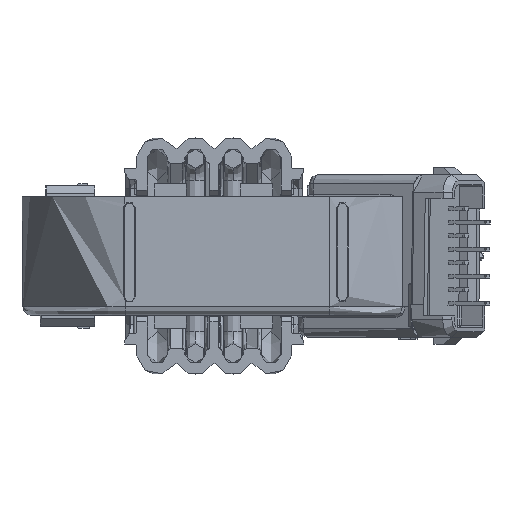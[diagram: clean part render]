
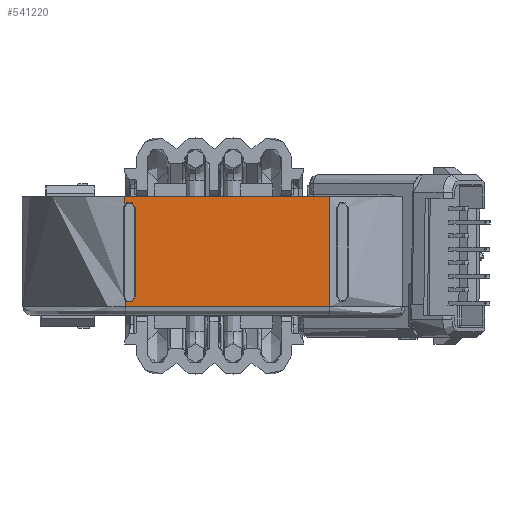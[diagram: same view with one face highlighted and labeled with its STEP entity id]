
A CAD part, front view. The second image highlights one B-rep face of the part: STEP entity #541220.
In plain terms, the highlighted planar face has unit normal (0, -1, -0.009) as drawn and (0.174, -0.985, -0.009) by its records, which use the part's own axes.
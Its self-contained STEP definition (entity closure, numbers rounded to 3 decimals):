
#393490=CARTESIAN_POINT('',(9.171,-18.005,
5.35));
#393500=VERTEX_POINT('',#393490);
#393530=CARTESIAN_POINT('',(0.,-19.618,5.35));
#393540=DIRECTION('',(-0.985,-0.174,0.));
#393550=VECTOR('',#393540,1.);
#393560=LINE('',#393530,#393550);
#393570=CARTESIAN_POINT('',(-9.541,-21.305,
5.35));
#393580=VERTEX_POINT('',#393570);
#393590=EDGE_CURVE('',#393500,#393580,#393560,.T.);
#540320=CARTESIAN_POINT('',(9.64,-17.83,
-5.124));
#540330=DIRECTION('',(0.174,-0.985,
-0.009));
#540340=DIRECTION('',(-0.985,-0.174,
0.));
#540350=AXIS2_PLACEMENT_3D('',#540320,#540330,#540340);
#540360=PLANE('',#540350);
#540370=CARTESIAN_POINT('',(-8.557,-21.122,
4.34));
#540380=CARTESIAN_POINT('',(-8.557,-21.122,
4.343));
#540390=CARTESIAN_POINT('',(-8.557,-21.122,
4.345));
#540400=CARTESIAN_POINT('',(-8.558,-21.123,
4.436));
#540410=CARTESIAN_POINT('',(-8.58,-21.128,
4.523));
#540420=CARTESIAN_POINT('',(-8.663,-21.144,
4.681));
#540430=CARTESIAN_POINT('',(-8.725,-21.155,
4.749));
#540440=CARTESIAN_POINT('',(-8.851,-21.178,
4.834));
#540450=CARTESIAN_POINT('',(-8.909,-21.189,
4.86));
#540460=CARTESIAN_POINT('',(-8.969,-21.2,
4.875));
#540470=CARTESIAN_POINT('',(-9.056,-21.215,
4.896));
#540480=CARTESIAN_POINT('',(-9.147,-21.231,
4.896));
#540490=CARTESIAN_POINT('',(-9.321,-21.262,
4.85));
#540500=CARTESIAN_POINT('',(-9.401,-21.275,
4.805));
#540510=CARTESIAN_POINT('',(-9.491,-21.29,
4.721));
#540520=CARTESIAN_POINT('',(-9.512,-21.294,
4.696));
#540530=CARTESIAN_POINT('',(-9.533,-21.297,
4.669));
#540540=CARTESIAN_POINT('',(-9.534,-21.297,
4.667));
#540550=CARTESIAN_POINT('',(-9.536,-21.298,
4.665));
#540560=B_SPLINE_CURVE_WITH_KNOTS('',3,(#540370,#540380,#540390,#540400,
#540410,#540420,#540430,#540440,#540450,#540460,#540470,#540480,#540490,
#540500,#540510,#540520,#540530,#540540,#540550),.UNSPECIFIED.,.F.,.F.,(
4,2,2,2,3,2,2,2,4),(0.,0.007,0.259,
0.52,0.7,0.961,1.221,
1.314,1.322),.UNSPECIFIED.);
#540570=CARTESIAN_POINT('',(-8.557,-21.122,
4.34));
#540580=VERTEX_POINT('',#540570);
#540590=CARTESIAN_POINT('',(-9.536,-21.298,
4.665));
#540600=VERTEX_POINT('',#540590);
#540610=EDGE_CURVE('',#540580,#540600,#540560,.T.);
#540620=ORIENTED_EDGE('',*,*,#540610,.F.);
#540630=CARTESIAN_POINT('',(-9.54,-21.304,
5.3));
#540640=DIRECTION('',(0.007,0.01,
-1.));
#540650=VECTOR('',#540640,1.);
#540660=LINE('',#540630,#540650);
#540670=EDGE_CURVE('',#393580,#540600,#540660,.T.);
#540680=ORIENTED_EDGE('',*,*,#540670,.T.);
#540690=ORIENTED_EDGE('',*,*,#393590,.T.);
#540700=CARTESIAN_POINT('',(9.171,-18.005,
5.3));
#540710=DIRECTION('',(-0.002,0.009,
-1.));
#540720=VECTOR('',#540710,1.);
#540730=LINE('',#540700,#540720);
#540740=CARTESIAN_POINT('',(9.156,-17.918,
-4.857));
#540750=VERTEX_POINT('',#540740);
#540760=EDGE_CURVE('',#393500,#540750,#540730,.T.);
#540770=ORIENTED_EDGE('',*,*,#540760,.F.);
#540780=CARTESIAN_POINT('',(9.156,-17.918,
-4.857));
#540790=DIRECTION('',(-0.985,-0.174,
0.));
#540800=VECTOR('',#540790,1.);
#540810=LINE('',#540780,#540800);
#540820=CARTESIAN_POINT('',(-9.467,-21.201,
-4.856));
#540830=VERTEX_POINT('',#540820);
#540840=EDGE_CURVE('',#540750,#540830,#540810,.T.);
#540850=ORIENTED_EDGE('',*,*,#540840,.F.);
#540860=CARTESIAN_POINT('',(-9.472,-21.207,
-4.35));
#540870=VERTEX_POINT('',#540860);
#540880=EDGE_CURVE('',#540870,#540830,#540660,.T.);
#540890=ORIENTED_EDGE('',*,*,#540880,.T.);
#540900=CARTESIAN_POINT('',(-9.472,-21.207,
-4.35));
#540910=CARTESIAN_POINT('',(-9.47,-21.206,
-4.352));
#540920=CARTESIAN_POINT('',(-9.468,-21.206,
-4.354));
#540930=CARTESIAN_POINT('',(-9.433,-21.199,
-4.385));
#540940=CARTESIAN_POINT('',(-9.395,-21.192,
-4.411));
#540950=CARTESIAN_POINT('',(-9.274,-21.171,
-4.472));
#540960=CARTESIAN_POINT('',(-9.185,-21.155,
-4.492));
#540970=CARTESIAN_POINT('',(-9.033,-21.128,
-4.487));
#540980=CARTESIAN_POINT('',(-8.972,-21.117,
-4.475));
#540990=CARTESIAN_POINT('',(-8.914,-21.107,
-4.452));
#541000=CARTESIAN_POINT('',(-8.83,-21.093,
-4.418));
#541010=CARTESIAN_POINT('',(-8.756,-21.08,
-4.364));
#541020=CARTESIAN_POINT('',(-8.64,-21.061,
-4.225));
#541030=CARTESIAN_POINT('',(-8.6,-21.055,
-4.142));
#541040=CARTESIAN_POINT('',(-8.574,-21.051,
-4.018));
#541050=CARTESIAN_POINT('',(-8.57,-21.051,
-3.982));
#541060=CARTESIAN_POINT('',(-8.57,-21.051,
-3.945));
#541070=CARTESIAN_POINT('',(-8.57,-21.051,
-3.942));
#541080=CARTESIAN_POINT('',(-8.57,-21.051,
-3.94));
#541090=B_SPLINE_CURVE_WITH_KNOTS('',3,(#540900,#540910,#540920,#540930,
#540940,#540950,#540960,#540970,#540980,#540990,#541000,#541010,#541020,
#541030,#541040,#541050,#541060,#541070,#541080),.UNSPECIFIED.,.F.,.F.,(
4,2,2,2,3,2,2,2,4),(0.,0.007,0.138,
0.399,0.579,0.84,1.1,
1.202,1.209),.UNSPECIFIED.);
#541100=CARTESIAN_POINT('',(-8.57,-21.051,
-3.94));
#541110=VERTEX_POINT('',#541100);
#541120=EDGE_CURVE('',#540870,#541110,#541090,.T.);
#541130=ORIENTED_EDGE('',*,*,#541120,.F.);
#541140=CARTESIAN_POINT('',(-8.564,-21.085,
0.));
#541150=DIRECTION('',(0.002,-0.009,
1.));
#541160=VECTOR('',#541150,1.);
#541170=LINE('',#541140,#541160);
#541180=EDGE_CURVE('',#541110,#540580,#541170,.T.);
#541190=ORIENTED_EDGE('',*,*,#541180,.F.);
#541200=EDGE_LOOP('',(#541190,#541130,#540890,#540850,#540770,#540690,
#540680,#540620));
#541210=FACE_OUTER_BOUND('',#541200,.T.);
#541220=ADVANCED_FACE('',(#541210),#540360,.T.);
